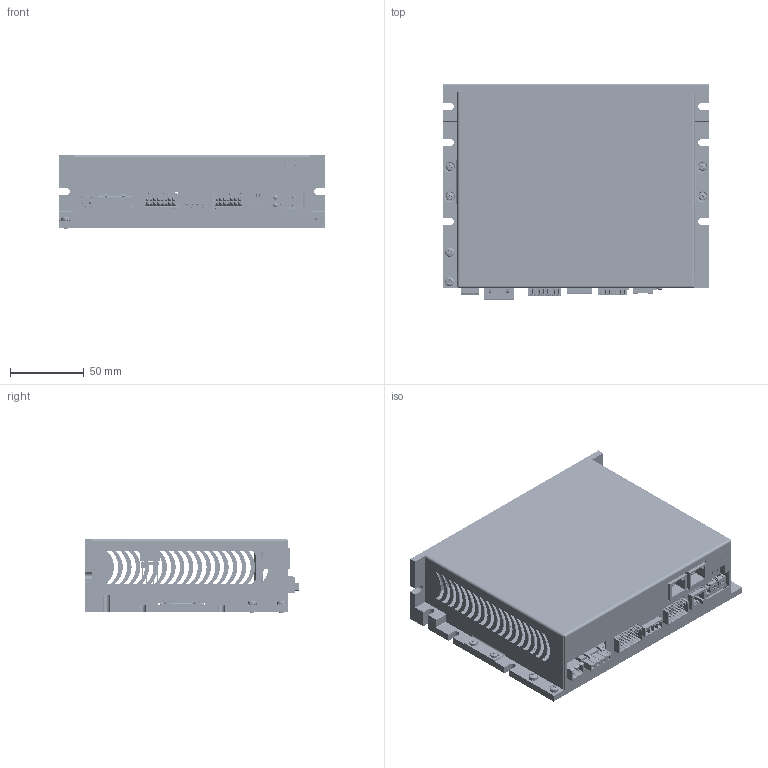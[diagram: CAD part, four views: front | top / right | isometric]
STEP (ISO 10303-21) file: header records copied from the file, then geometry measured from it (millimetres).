
FILE_DESCRIPTION(/* description */ ('Unknown'),/* implementation_level */ '2;1');
FILE_NAME(/* name */ 'SW5A9030H221-20',/* time_stamp */ '2021-12-14T16:29:29+01:00',/* author */ ('Unknown'),/* organization */ ('Unknown'),/* preprocessor_version */ 'ST-DEVELOPER v16.7',/* originating_system */ 'Solid Edge',/* authorisation */ 'Unknown');
FILE_SCHEMA (('AUTOMOTIVE_DESIGN {1 0 10303 214 3 1 1}'));
Products named in the file (62): SW5A9030; estruso_sw5a9030_isd04_inserti; ESTRUSO_SW5A9030_ISD04; inserto_m2_5x12mm; ad_01121_sw5a9030_isd04; hexdist_MF_M2e5 x 30mm; dentellata_M3; tcc_M2e5x05; ISD04-00_oa_0; Board; Open CASCADE STEP translator 6.8 2.1.1; CN7; 1782378; mc_1.5-4-g-3.81-p14-thr; CN3; dinkle_0156-1514; J405; hw-02-12-x-d-750-100; J404; HW-05-13-F-D-827-118; __BBHW-05-13-F-D-827-118; __PHW-05-13-F-D-827-118; __TBHW-05-13-F-D-827-118; CN2; 1731086; CN4; dinkle_0156-1516l; GL400; 5151061f; J400; IMD03DIP-00; DIP100; a6e-4104; SW401; RTE0400V04; SW400; CN6; 955012641; Open CASCADE STEP translator 6.8 2.503.1.1; Open CASCADE STEP translator 6.8 2.503.1.2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
Assembly tree (80 placements, depth 6):
  SW5A9030
    estruso_sw5a9030_isd04_inserti
      ESTRUSO_SW5A9030_ISD04
      inserto_m2_5x12mm  x3
    ad_01121_sw5a9030_isd04
    hexdist_MF_M2e5 x 30mm  x2
    dentellata_M3  x2
    tcc_M2e5x05  x12
    ISD04-00_oa_0
      Board
        Open CASCADE STEP translator 6.8 2.1.1
      CN7
        1782378
          mc_1.5-4-g-3.81-p14-thr
      CN3
        dinkle_0156-1514
      J405
        hw-02-12-x-d-750-100
      J404
        HW-05-13-F-D-827-118
          __BBHW-05-13-F-D-827-118
          __PHW-05-13-F-D-827-118
          __TBHW-05-13-F-D-827-118
      CN2
        1731086
      CN4
        dinkle_0156-1516l
      GL400
        5151061f
      J400
        IMD03DIP-00
          Board
          DIP100
            a6e-4104
      SW401
        RTE0400V04
      SW400
        RTE0400V04
      CN6
        955012641
          Open CASCADE STEP translator 6.8 2.503.1.1
          Open CASCADE STEP translator 6.8 2.503.1.2
      CN1
        CA02MHLT5.08B_1757242
          MSTBA_2_5-2-G-5_08-72070_ASM
            MSTBA_2_5-2-G-5_08-69580
    tcc_M3x06  x2
    Scatola SW5A9030 con ISD04
    ETH05-00_oa_1
      Board
        Open CASCADE STEP translator 6.8 1.1.1
      CN15B
        J0011D01BNL
      CN15A
        J0011D01BNL
      LED300
        LED_HSMx-C680
      LED301
        LED_HSMx-C680
      J101
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Bounding box: 180.7 x 146.11 x 50.4 mm (x, y, z)
Volume: 279163.8 mm3; surface area: 238387.2 mm2
Topology: 47 solids, 76 shells, 8076 faces, 21689 edges, 14015 vertices
Faces by surface type: plane 5946, cylinder 1608, bspline 230, cone 128, sphere 84, torus 80
Full cylindrical faces by diameter (mm): 0.434 x1, 0.457 x2, 0.762 x48, 0.8 x12, 0.889 x16, 0.9 x20, 1 x25, 1.016 x56, 1.2 x8, 1.25 x4, 1.27 x2, 1.397 x1, 1.4 x48, 1.5 x6, 1.524 x6, 1.53 x1, 1.55 x1, 1.6 x12, 1.778 x4, 2.013 x9, 2.032 x6, 2.05 x3, 2.459 x2, 2.5 x21, 2.7 x10, 2.75 x2, 2.8 x4, 3 x6, 3.048 x2, 3.2 x8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
Entity records: 247409 total; most frequent: CARTESIAN_POINT 43954, ORIENTED_EDGE 35992, DIRECTION 33911, EDGE_CURVE 18032, LINE 14197, VECTOR 14197, VERTEX_POINT 11923, AXIS2_PLACEMENT_3D 9857
